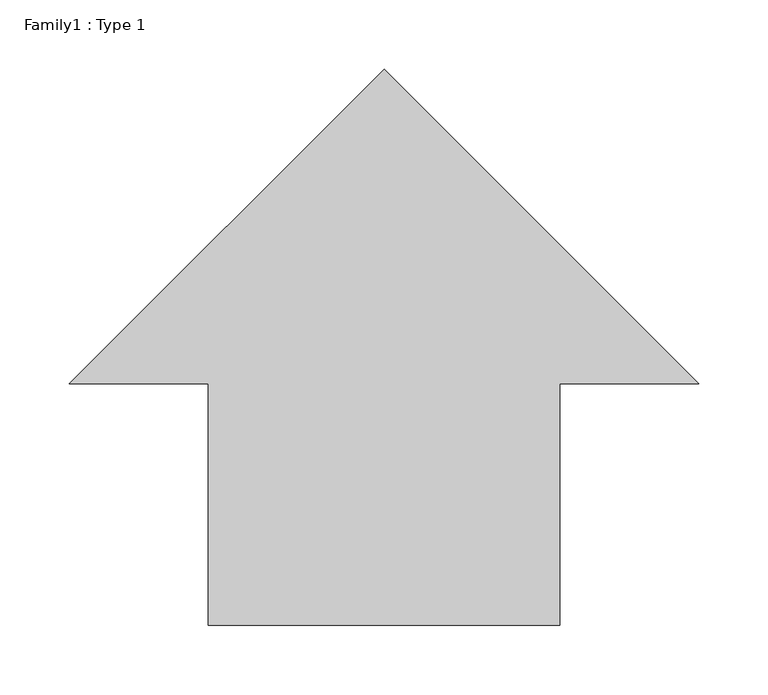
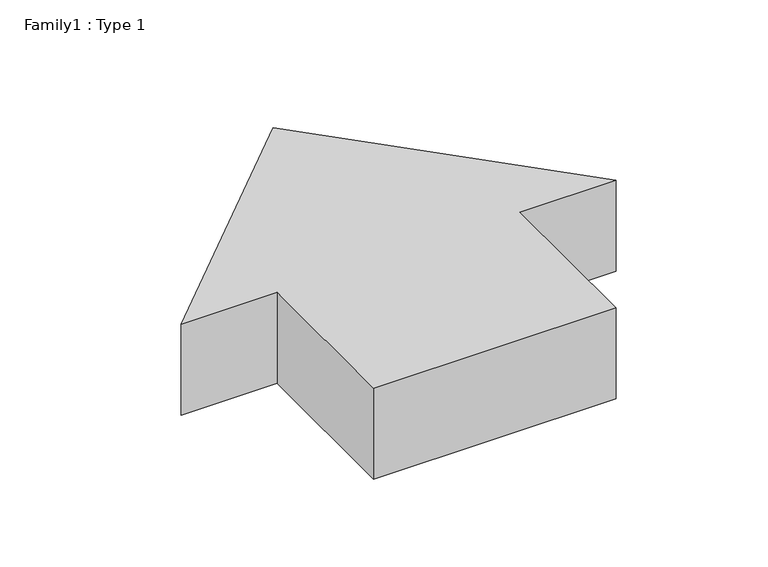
"""IFC4 building model written with IfcOpenShell, lengths in millimetres: furniture geometry, Family1 : Type 1."""

import ifcopenshell
import ifcopenshell.guid

model = None  # the IFC model being written
_history = None  # IfcOwnerHistory: only IFC2X3 demands one
_inside = {}  # id of a spatial element -> (the spatial element, [elements in it])
_under = {}  # id of a project, library or spatial element -> (it, [spatial elements below it])
_declared = {}  # id of a project -> (the project, [libraries it declares])
_typed = {}  # id of a type object -> (the type object, [elements of that type])
_made_of = {}  # id of a material, layer set ... -> (it, [elements and type objects made of it])


def new_model(schema):
    """Start an empty IFC model of exactly this schema.

    Asked for "IFC4X3", IfcOpenShell would pick the latest addendum, in which some entities
    have other attributes; the version numbers below select the first issue.
    IFC2X3 requires an IfcOwnerHistory on every rooted entity: one is made here for all.
    """
    global model, _history
    if schema == "IFC4X3":
        model = ifcopenshell.file(schema_version=(4, 3, 0, 0))
    else:
        model = ifcopenshell.file(schema=schema)
    _inside.clear()
    _under.clear()
    _declared.clear()
    _typed.clear()
    _made_of.clear()
    _history = None
    if model.schema == "IFC2X3":
        org = make("IfcOrganization", Name="unknown")
        user = make(
            "IfcPersonAndOrganization",
            ThePerson=make("IfcPerson", FamilyName="unknown"),
            TheOrganization=org,
        )
        app = make(
            "IfcApplication",
            ApplicationDeveloper=org,
            Version="unknown",
            ApplicationFullName="unknown",
            ApplicationIdentifier="unknown",
        )
        _history = make(
            "IfcOwnerHistory",
            OwningUser=user,
            OwningApplication=app,
            ChangeAction="ADDED",
            CreationDate=0,
        )
    return model


def make(cls, **values):
    """One entity of the class cls with the attributes given. An attribute that is None is left unset."""
    return model.create_entity(
        cls, **{name: value for name, value in values.items() if value is not None}
    )


def rooted(cls, **values):
    """An entity with a GlobalId (a new one), such as an element, a storey or a relation."""
    return make(cls, GlobalId=ifcopenshell.guid.new(), OwnerHistory=_history, **values)


def si_unit(unit_type, name, prefix=None):
    """IfcSIUnit, for example si_unit("LENGTHUNIT", "METRE", prefix="MILLI")."""
    return make("IfcSIUnit", UnitType=unit_type, Prefix=prefix, Name=name)


def assignment(units):
    """IfcUnitAssignment: the units of a project."""
    return None if units is None else make("IfcUnitAssignment", Units=units)


def point(xyz):
    """IfcCartesianPoint."""
    return None if xyz is None else make("IfcCartesianPoint", Coordinates=xyz)


def direction(xyz):
    """IfcDirection."""
    return None if xyz is None else make("IfcDirection", DirectionRatios=xyz)


def frame(location, z_axis=None, x_axis=None):
    """IfcAxis2Placement3D, a coordinate frame: its origin and axes. An axis left out is left unset."""
    return make(
        "IfcAxis2Placement3D",
        Location=point(location),
        Axis=direction(z_axis),
        RefDirection=direction(x_axis),
    )


def origin():
    """The frame at (0, 0, 0) with its axes left unset."""
    return frame((0.0, 0.0, 0.0))


def origin_with_axes():
    """The frame at (0, 0, 0) with the z axis (0, 0, 1) and the x axis (1, 0, 0) written out."""
    return frame((0.0, 0.0, 0.0), z_axis=(0.0, 0.0, 1.0), x_axis=(1.0, 0.0, 0.0))


def place(relative_to, where):
    """IfcLocalPlacement: puts the frame where relative to a parent placement (None: the world)."""
    return make(
        "IfcLocalPlacement", PlacementRelTo=relative_to, RelativePlacement=where
    )


def context(
    kind, dimensions, precision=None, world=None, true_north=None, identifier=None
):
    """IfcGeometricRepresentationContext, for example the 3D "Model" context."""
    return make(
        "IfcGeometricRepresentationContext",
        ContextIdentifier=identifier,
        ContextType=kind,
        CoordinateSpaceDimension=dimensions,
        Precision=precision,
        WorldCoordinateSystem=world,
        TrueNorth=true_north,
    )


def project(units=None, contexts=None):
    """IfcProject with its units and contexts."""
    return rooted(
        "IfcProject",
        Name="project",
        RepresentationContexts=contexts,
        UnitsInContext=assignment(units),
    )


def spatial(cls, under=None, at=None, **own):
    """A site, building, storey or space (cls), placed at a placement, below another one or the project."""
    s = rooted(cls, ObjectPlacement=at, **own)
    if under is not None:
        _under.setdefault(under.id(), (under, []))[1].append(s)
    return s


def polyline(points):
    """IfcPolyline through the points."""
    return make("IfcPolyline", Points=[point(p) for p in points])


def outline(outer, holes=None, kind="AREA"):
    """IfcArbitraryClosedProfileDef: a profile drawn as a closed curve; with holes, ...WithVoids."""
    if holes is None:
        return make("IfcArbitraryClosedProfileDef", ProfileType=kind, OuterCurve=outer)
    return make(
        "IfcArbitraryProfileDefWithVoids",
        ProfileType=kind,
        OuterCurve=outer,
        InnerCurves=holes,
    )


def extrude(swept, where, along, depth):
    """IfcExtrudedAreaSolid: the profile swept, set in the frame where, extruded along a direction by depth."""
    return make(
        "IfcExtrudedAreaSolid",
        SweptArea=swept,
        Position=where,
        ExtrudedDirection=direction(along),
        Depth=depth,
    )


def shape(context_of_items, identifier, shape_type, items):
    """IfcShapeRepresentation: the items that make up one representation, for example the "Body"."""
    return make(
        "IfcShapeRepresentation",
        ContextOfItems=context_of_items,
        RepresentationIdentifier=identifier,
        RepresentationType=shape_type,
        Items=items,
    )


def source(mapping_origin, context_of_items, identifier, shape_type, items):
    """IfcRepresentationMap: a shape defined once, which mapped items show again and again."""
    return make(
        "IfcRepresentationMap",
        MappingOrigin=mapping_origin,
        MappedRepresentation=shape(context_of_items, identifier, shape_type, items),
    )


def transform(
    local_origin,
    x_axis=None,
    y_axis=None,
    z_axis=None,
    scale=None,
    scale2=None,
    scale3=None,
    uniform=True,
):
    """IfcCartesianTransformationOperator3D, or its non-uniform kind. x_axis, y_axis, z_axis: its Axis1, 2, 3."""
    if uniform:
        return make(
            "IfcCartesianTransformationOperator3D",
            Axis1=direction(x_axis),
            Axis2=direction(y_axis),
            LocalOrigin=point(local_origin),
            Scale=scale,
            Axis3=direction(z_axis),
        )
    return make(
        "IfcCartesianTransformationOperator3DnonUniform",
        Axis1=direction(x_axis),
        Axis2=direction(y_axis),
        LocalOrigin=point(local_origin),
        Scale=scale,
        Axis3=direction(z_axis),
        Scale2=scale2,
        Scale3=scale3,
    )


def mapped(mapping_source, mapping_target):
    """IfcMappedItem: shows the shape of a source again, moved by a transform."""
    return make(
        "IfcMappedItem", MappingSource=mapping_source, MappingTarget=mapping_target
    )


def made_of(thing, what):
    """Note that an element or type object is made of a material, layer set ...; save() writes the relation."""
    if what is not None:
        _made_of.setdefault(what.id(), (what, []))[1].append(thing)
    return thing


def element(
    cls,
    number,
    at=None,
    inside=None,
    cuts=None,
    type_object=None,
    material=None,
    context=None,
    identifier="Body",
    shape_type=None,
    held_by="IfcProductDefinitionShape",
    body=None,
    shapes=None,
    **own,
):
    """One element of the class cls, such as IfcWall. Its Tag is "e" and its number.

    at: its placement. inside: the storey or other place that contains it. cuts: it is an
    opening in that element (IfcRelVoidsElement). A single representation is given by context,
    identifier, shape_type and body (its items); several are given by shapes. held_by: the class
    of the entity that holds the representations. save() writes the other relations.
    """
    e = rooted(cls, Tag="e%d" % number, ObjectPlacement=at, **own)
    if body is not None:
        shapes = [shape(context, identifier, shape_type, body)]
    if shapes is not None:
        e.Representation = make(held_by, Representations=shapes)
    if inside is not None:
        _inside.setdefault(inside.id(), (inside, []))[1].append(e)
    if cuts is not None:
        rooted(
            "IfcRelVoidsElement", RelatingBuildingElement=cuts, RelatedOpeningElement=e
        )
    if type_object is not None:
        _typed.setdefault(type_object.id(), (type_object, []))[1].append(e)
    return made_of(e, material)


def aggregate(whole, parts):
    """IfcRelAggregates: a whole, such as a stair, and the parts it consists of."""
    return rooted("IfcRelAggregates", RelatingObject=whole, RelatedObjects=parts)


def save(model, path):
    """Write the relations noted so far, then the file.

    IfcRelAggregates (storeys below a building ...), IfcRelContainedInSpatialStructure (elements
    in a storey), IfcRelDefinesByType, IfcRelAssociatesMaterial and IfcRelDeclares: one each for
    every whole, place, type object, material and project.
    """
    for whole, parts in _under.values():
        aggregate(whole, parts)
    for where, things in _inside.values():
        rooted(
            "IfcRelContainedInSpatialStructure",
            RelatedElements=things,
            RelatingStructure=where,
        )
    for kind, things in _typed.values():
        rooted("IfcRelDefinesByType", RelatedObjects=things, RelatingType=kind)
    for what, things in _made_of.values():
        rooted("IfcRelAssociatesMaterial", RelatedObjects=things, RelatingMaterial=what)
    for by, libraries in _declared.values():
        rooted("IfcRelDeclares", RelatingContext=by, RelatedDefinitions=libraries)
    model.write(path)


def family1_type_1_402a80f3(model_context):
    return source(origin(), model_context, "Body", "SweptSolid", [
        extrude(outline(polyline([(226.27417, -226.27417), (126.27417, -226.27417), (126.27417, -400.0), (-126.27417, -400.0), (-126.27417, -226.27417), (-226.27417, -226.27417), (0.0, 0.0), (226.27417, -226.27417)])), origin_with_axes(), (0.0, 0.0, 1.0), 100.0),
    ])


if __name__ == "__main__":
    model = new_model("IFC4")
    model_context = context("Model", 3, world=origin())
    ifc_project = project(units=[si_unit("LENGTHUNIT", "METRE", prefix="MILLI")], contexts=[model_context])
    site = spatial("IfcSite", under=ifc_project)
    building = spatial("IfcBuilding", under=site)
    placement = place(None, origin())
    family1_type_1_shape = family1_type_1_402a80f3(model_context)
    element("IfcFurniture", 1, ObjectType="Family1 : Type 1", at=placement, inside=building, context=model_context, shape_type="MappedRepresentation", body=[
        mapped(family1_type_1_shape, transform((0.0, 0.0, 0.0), x_axis=(1.0, 0.0, 0.0), y_axis=(0.0, 1.0, 0.0), z_axis=(0.0, 0.0, 1.0))),
    ])
    save(model, "model.ifc")
